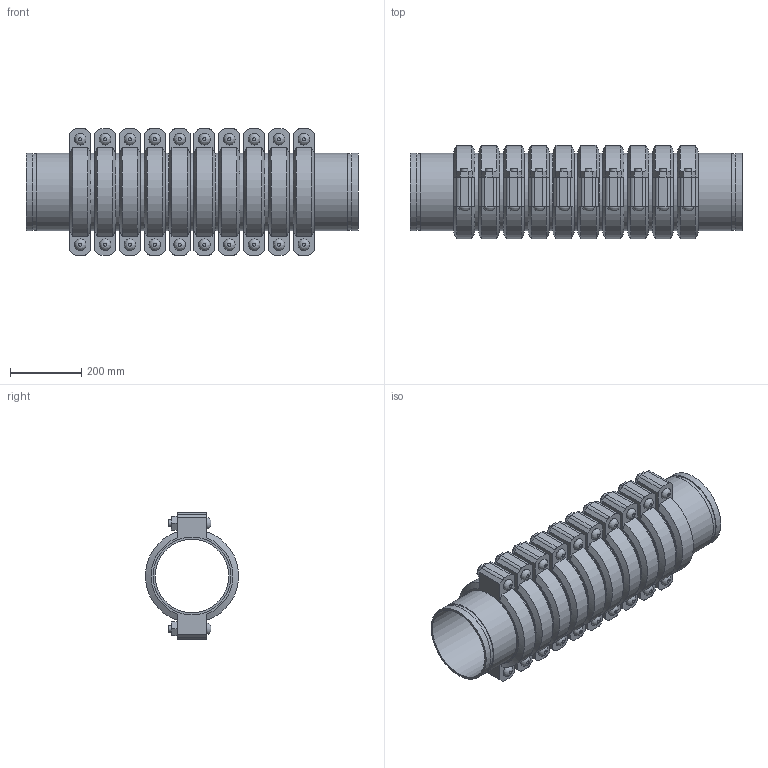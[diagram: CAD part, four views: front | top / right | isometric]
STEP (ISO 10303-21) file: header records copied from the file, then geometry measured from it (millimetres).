
FILE_DESCRIPTION(/* description */ ('VIC SS EXPANSION JOINT 10 COUPLINGS COMPRESSED STYLE 155P (OGS) (POTABLE WATER) ','CAx-IF Rec.Pracs.---Representation and Presentation of Product Manufacturing Information (PMI)---4.0---2014-10-13'),/* implementation_level */ '2;1');
FILE_NAME(/* name */ 'C:\Users\kkamble\AppData\Roaming\Autodesk\ApplicationPlugins\Victaulic.Temp\A563\Victaulic_SS_Expansion Joint_Compressed_10 Couplings_Style 155P (OGS)-Potable Water_10 Coup_Comp_8 (200).stp',/* time_stamp */ '2021-07-16T17:05:43+06:00',/* author */ ('kkamble'),/* organization */ ('Victaulic'),/* preprocessor_version */ 'ST-DEVELOPER v17.2',/* originating_system */ 'Autodesk Inventor 2019',/* authorisation */ '');
FILE_SCHEMA (('AP242_MANAGED_MODEL_BASED_3D_ENGINEERING_MIM_LF { 1 0 10303 442 1 1 4 }'));
Length unit declared in the file: inch
Products named in the file (4): 155P-08.0; Nipple-08.0; Nipple-08.0_1; 075-08.0
Assembly tree (21 placements, depth 2):
  155P-08.0
    Nipple-08.0  x2
    Nipple-08.0_1  x9
    075-08.0  x10
Bounding box: 933.45 x 261.72 x 354.84 mm (x, y, z)
Volume: 17204731.3 mm3; surface area: 3076270.1 mm2
Topology: 21 solids, 41 shells, 662 faces, 1600 edges, 1124 vertices
Faces by surface type: plane 406, cylinder 196, cone 40, bspline 20
Full cylindrical faces by diameter (mm): 19.05 x40, 21.209 x20, 206.985 x11, 214.401 x22, 219.075 x43
Entity records: 2769 total; most frequent: CARTESIAN_POINT 491, DIRECTION 467, ORIENTED_EDGE 374, AXIS2_PLACEMENT_3D 188, EDGE_CURVE 187, VERTEX_POINT 134, EDGE_LOOP 101, LINE 91
